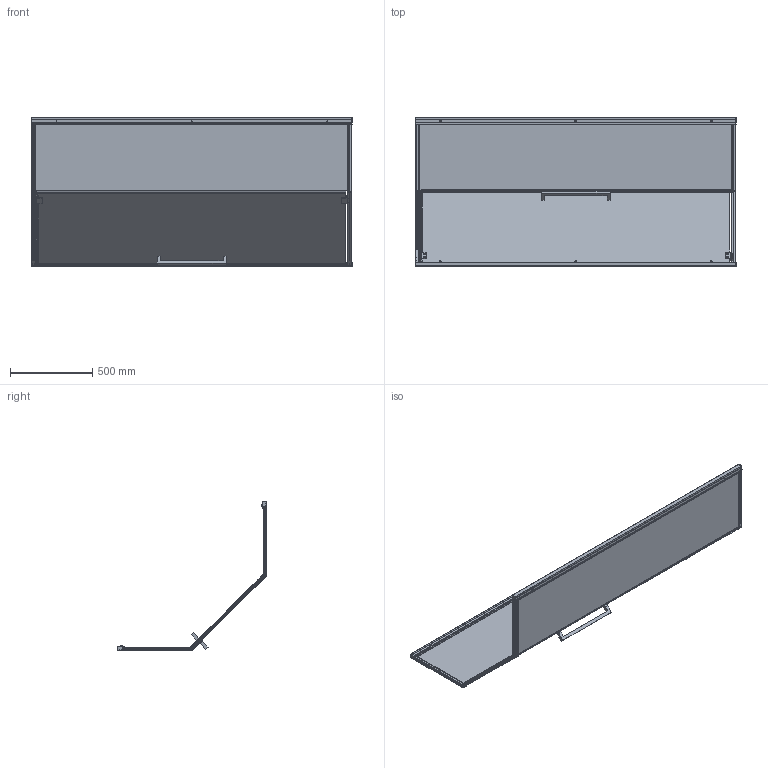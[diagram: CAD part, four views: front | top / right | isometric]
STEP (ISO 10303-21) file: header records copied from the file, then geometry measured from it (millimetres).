
FILE_DESCRIPTION((''),'2;1');
FILE_NAME('00-D517521-8MM_ASM','2022-06-07T16:37:06',('M'),(''),'CREO PARAMETRIC BY PTC INC, 2017110','CREO PARAMETRIC BY PTC INC, 2017110','');
FILE_SCHEMA(('CONFIG_CONTROL_DESIGN'));
Products named in the file (39): 517000; 0002; 0003; 0004; YTZG_ST4X16; CTZG_ST4X10; 20001; 0001_ASM; 61700; 0005; 000; 609W101; 609Z103; 609W102-2; BOLT-M4; ADMI290C15F6YSLS_1; 0008; LJCT_M6X14; 0009; 609W11A-2_ASM; 517-800; 0006_ASM; YTJS_M4X12; 0010; 1351000; 1352000; _-0001; 617-00; 617Z202; PRT0001; YTZG_ST4X25; YTZG_ST4X10; 28Z05-1-; 28Z05-2-; 001_ASM; _0001; 00-D517521-8MM_ASM
Assembly tree (74 placements, depth 4):
  00-D517521-8MM_ASM
    0001_ASM  x2
      517000
      517000
      517000
      0002
      0003
      0004
      YTZG_ST4X16
      CTZG_ST4X10
      20001
    61700  x2
    0005  x2
    0006_ASM
      000
      609W11A-2_ASM  x2
        609W101
        609Z103
        609W102-2
        BOLT-M4
        ADMI290C15F6YSLS_1
        0008
        LJCT_M6X14
        0009
      517-800  x2
    YTJS_M4X12  x4
    0010
    1351000
    1352000
    _-0001
    617-00  x2
    617Z202  x2
    PRT0001  x2
    YTZG_ST4X25  x2
    001_ASM  x6
      YTZG_ST4X10
      28Z05-1-
      28Z05-2-
    _0001
Bounding box: 1953 x 906.73 x 906.73 mm (x, y, z)
Volume: 26525498.4 mm3; surface area: 8125895.5 mm2
Topology: 114 solids, 114 shells, 4748 faces, 11728 edges, 7200 vertices
Faces by surface type: cylinder 1952, plane 1638, bspline 558, cone 262, torus 198, sphere 140
Entity records: 62951 total; most frequent: CARTESIAN_POINT 28516, ORIENTED_EDGE 7182, DIRECTION 6776, EDGE_CURVE 3591, AXIS2_PLACEMENT_3D 2418, VERTEX_POINT 2296, VECTOR 1940, LINE 1940
